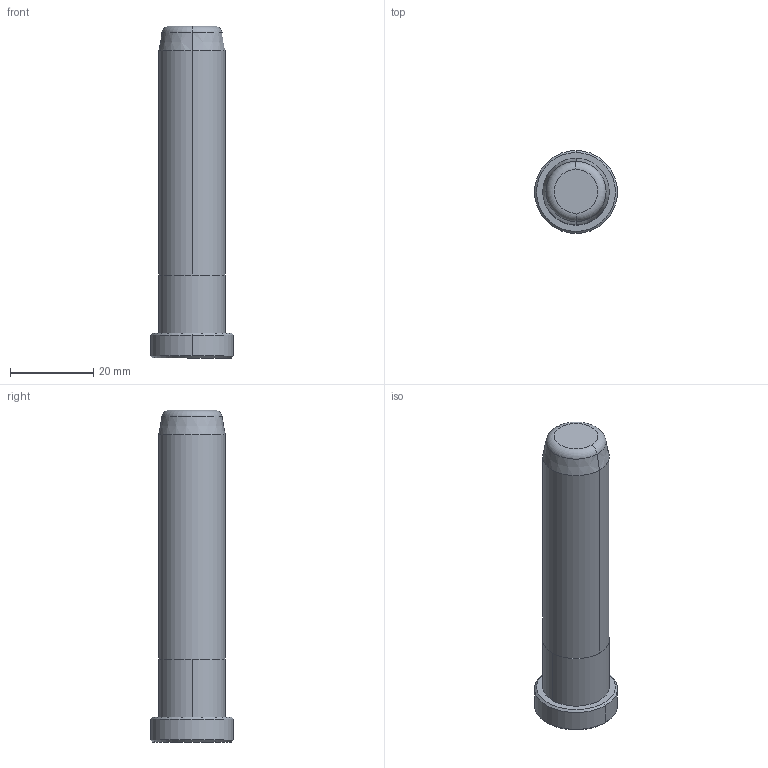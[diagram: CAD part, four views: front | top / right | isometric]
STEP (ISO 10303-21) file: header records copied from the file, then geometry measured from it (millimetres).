
FILE_DESCRIPTION((''),'2;1');
FILE_NAME('B80816080','2018-01-06T',('MANU'),(''),'PRO/ENGINEER BY PARAMETRIC TECHNOLOGY CORPORATION, 2012130','PRO/ENGINEER BY PARAMETRIC TECHNOLOGY CORPORATION, 2012130','');
FILE_SCHEMA(('CONFIG_CONTROL_DESIGN'));
Length unit declared in the file: millimetre
Products named in the file (1): B80816080
Bounding box: 20 x 20 x 80 mm (x, y, z)
Volume: 16579.1 mm3; surface area: 4597.2 mm2
Topology: 1 solids, 1 shells, 18 faces, 34 edges, 20 vertices
Faces by surface type: cone 6, cylinder 6, plane 4, torus 2
Entity records: 494 total; most frequent: DIRECTION 92, CARTESIAN_POINT 72, ORIENTED_EDGE 68, AXIS2_PLACEMENT_3D 40, EDGE_CURVE 34, CIRCLE 22, VERTEX_POINT 20, EDGE_LOOP 20
